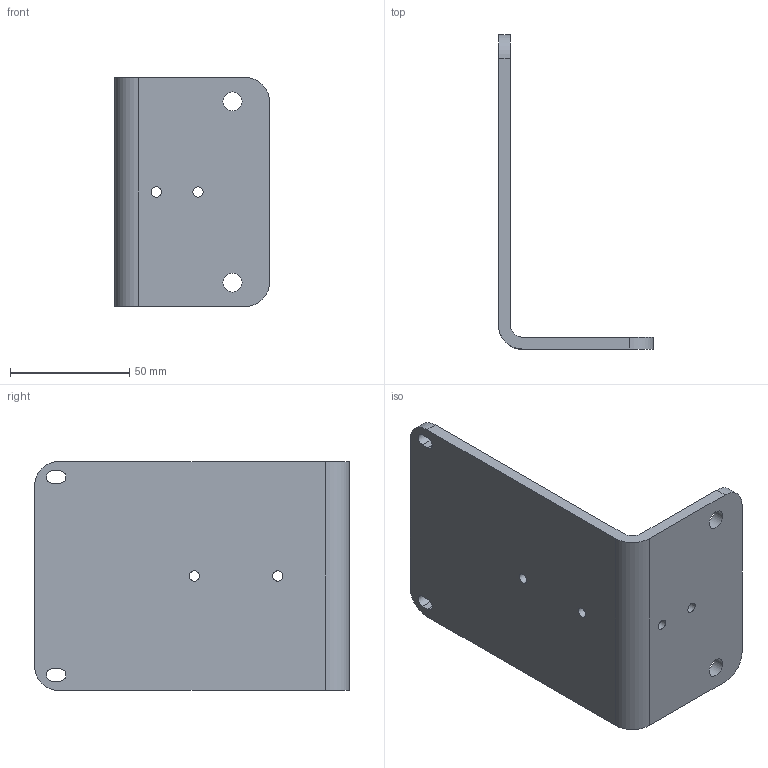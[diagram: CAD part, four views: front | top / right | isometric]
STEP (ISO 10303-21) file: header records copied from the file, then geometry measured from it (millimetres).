
FILE_DESCRIPTION(/* description */ (''),/* implementation_level */ '2;1');
FILE_NAME(/* name */ 'C:\Users\Nicholas Foo\Google Drive\Hari''s Mobility Solution\Design documents\P1\STEP\Plate_Gusset.stp',/* time_stamp */ '2017-10-02T17:17:40+08:00',/* author */ ('NicK Foo'),/* organization */ (''),/* preprocessor_version */ 'ST-DEVELOPER v16.13',/* originating_system */ 'Autodesk Inventor 2018',/* authorisation */ '');
FILE_SCHEMA (('AUTOMOTIVE_DESIGN { 1 0 10303 214 3 1 1 }'));
Length unit declared in the file: millimetre
Products named in the file (1): Plate_Gusset
Bounding box: 65 x 132 x 96 mm (x, y, z)
Volume: 89024.2 mm3; surface area: 39116.5 mm2
Topology: 1 solids, 1 shells, 28 faces, 84 edges, 58 vertices
Faces by surface type: cylinder 16, plane 12
Full cylindrical faces by diameter (mm): 4.3 x4, 8 x2
Entity records: 955 total; most frequent: DIRECTION 162, CARTESIAN_POINT 153, ORIENTED_EDGE 144, EDGE_CURVE 72, AXIS2_PLACEMENT_3D 61, VERTEX_POINT 52, EDGE_LOOP 50, LINE 40
